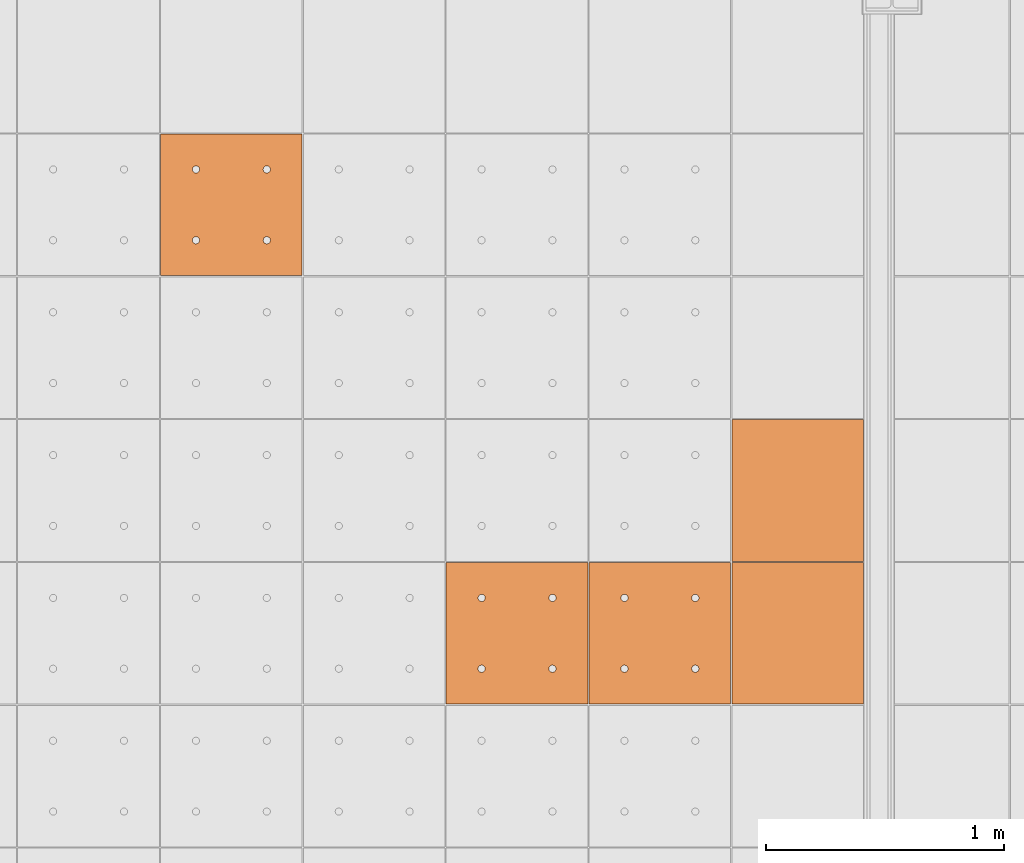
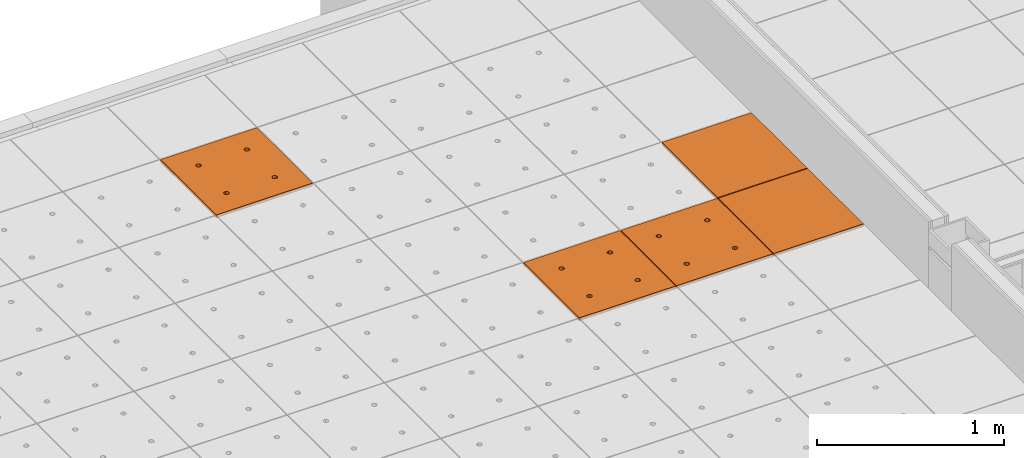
# One storey, part 307 of 338: 5 proxies, 1 element without a shape of its own.
"""IFC2X3 building model written with IfcOpenShell, lengths in millimetres."""

import ifcopenshell
import ifcopenshell.guid

model = None  # the IFC model being written
_history = None  # IfcOwnerHistory: only IFC2X3 demands one
_inside = {}  # id of a spatial element -> (the spatial element, [elements in it])
_under = {}  # id of a project, library or spatial element -> (it, [spatial elements below it])
_declared = {}  # id of a project -> (the project, [libraries it declares])
_typed = {}  # id of a type object -> (the type object, [elements of that type])
_made_of = {}  # id of a material, layer set ... -> (it, [elements and type objects made of it])


def new_model(schema):
    """Start an empty IFC model of exactly this schema.

    Asked for "IFC4X3", IfcOpenShell would pick the latest addendum, in which some entities
    have other attributes; the version numbers below select the first issue.
    IFC2X3 requires an IfcOwnerHistory on every rooted entity: one is made here for all.
    """
    global model, _history
    if schema == "IFC4X3":
        model = ifcopenshell.file(schema_version=(4, 3, 0, 0))
    else:
        model = ifcopenshell.file(schema=schema)
    _inside.clear()
    _under.clear()
    _declared.clear()
    _typed.clear()
    _made_of.clear()
    _history = None
    if model.schema == "IFC2X3":
        org = make("IfcOrganization", Name="unknown")
        user = make(
            "IfcPersonAndOrganization",
            ThePerson=make("IfcPerson", FamilyName="unknown"),
            TheOrganization=org,
        )
        app = make(
            "IfcApplication",
            ApplicationDeveloper=org,
            Version="unknown",
            ApplicationFullName="unknown",
            ApplicationIdentifier="unknown",
        )
        _history = make(
            "IfcOwnerHistory",
            OwningUser=user,
            OwningApplication=app,
            ChangeAction="ADDED",
            CreationDate=0,
        )
    return model


def make(cls, **values):
    """One entity of the class cls with the attributes given. An attribute that is None is left unset."""
    return model.create_entity(
        cls, **{name: value for name, value in values.items() if value is not None}
    )


def entity(cls, *values):
    """Any entity or typed value of the class cls, its attributes in the order of the schema. None: left unset."""
    e = model.create_entity(cls)
    for i, value in enumerate(values):
        if value is not None:
            e[i] = value
    return e


def rooted(cls, **values):
    """An entity with a GlobalId (a new one), such as an element, a storey or a relation."""
    return make(cls, GlobalId=ifcopenshell.guid.new(), OwnerHistory=_history, **values)


def si_unit(unit_type, name, prefix=None):
    """IfcSIUnit, for example si_unit("LENGTHUNIT", "METRE", prefix="MILLI")."""
    return make("IfcSIUnit", UnitType=unit_type, Prefix=prefix, Name=name)


def converted_unit(unit_type, name, factor, base, dimensions=None, offset=None):
    """IfcConversionBasedUnit, such as the inch: factor (a typed value) times the base unit."""
    return make(
        "IfcConversionBasedUnit"
        if offset is None
        else "IfcConversionBasedUnitWithOffset",
        ConversionOffset=offset,
        Dimensions=None
        if dimensions is None
        else entity("IfcDimensionalExponents", *dimensions),
        UnitType=unit_type,
        Name=name,
        ConversionFactor=make(
            "IfcMeasureWithUnit", ValueComponent=factor, UnitComponent=base
        ),
    )


def derived_unit(unit_type, elements):
    """IfcDerivedUnit: a product of units, each with its exponent."""
    return make(
        "IfcDerivedUnit",
        Elements=[
            make("IfcDerivedUnitElement", Unit=unit, Exponent=power)
            for unit, power in elements
        ],
        UnitType=unit_type,
    )


def money_unit(currency):
    """IfcMonetaryUnit."""
    return make("IfcMonetaryUnit", Currency=currency)


def assignment(units):
    """IfcUnitAssignment: the units of a project."""
    return None if units is None else make("IfcUnitAssignment", Units=units)


def point(xyz):
    """IfcCartesianPoint."""
    return None if xyz is None else make("IfcCartesianPoint", Coordinates=xyz)


def direction(xyz):
    """IfcDirection."""
    return None if xyz is None else make("IfcDirection", DirectionRatios=xyz)


def frame(location, z_axis=None, x_axis=None):
    """IfcAxis2Placement3D, a coordinate frame: its origin and axes. An axis left out is left unset."""
    return make(
        "IfcAxis2Placement3D",
        Location=point(location),
        Axis=direction(z_axis),
        RefDirection=direction(x_axis),
    )


def origin_with_axes():
    """The frame at (0, 0, 0) with the z axis (0, 0, 1) and the x axis (1, 0, 0) written out."""
    return frame((0.0, 0.0, 0.0), z_axis=(0.0, 0.0, 1.0), x_axis=(1.0, 0.0, 0.0))


def place(relative_to, where):
    """IfcLocalPlacement: puts the frame where relative to a parent placement (None: the world)."""
    return make(
        "IfcLocalPlacement", PlacementRelTo=relative_to, RelativePlacement=where
    )


def context(
    kind, dimensions, precision=None, world=None, true_north=None, identifier=None
):
    """IfcGeometricRepresentationContext, for example the 3D "Model" context."""
    return make(
        "IfcGeometricRepresentationContext",
        ContextIdentifier=identifier,
        ContextType=kind,
        CoordinateSpaceDimension=dimensions,
        Precision=precision,
        WorldCoordinateSystem=world,
        TrueNorth=true_north,
    )


def subcontext(parent, identifier, kind, view, scale=None):
    """IfcGeometricRepresentationSubContext, for example "Body" below "Model"."""
    return make(
        "IfcGeometricRepresentationSubContext",
        ContextIdentifier=identifier,
        ContextType=kind,
        ParentContext=parent,
        TargetScale=scale,
        TargetView=view,
    )


def project(units=None, contexts=None):
    """IfcProject with its units and contexts."""
    return rooted(
        "IfcProject",
        Name="project",
        RepresentationContexts=contexts,
        UnitsInContext=assignment(units),
    )


def spatial(cls, under=None, at=None, **own):
    """A site, building, storey or space (cls), placed at a placement, below another one or the project."""
    s = rooted(cls, ObjectPlacement=at, **own)
    if under is not None:
        _under.setdefault(under.id(), (under, []))[1].append(s)
    return s


def faces_of(points, faces, orient=None, outer=None):
    """IfcFace entities. A face is a list of loops; a loop is a list of indices into points, from 0.

    orient and outer hold one flag for each loop. By default every Orientation is true, the
    first loop of a face is its IfcFaceOuterBound and the others are IfcFaceBound.
    """
    made = []
    for i, loops in enumerate(faces):
        bounds = []
        for j, loop in enumerate(loops):
            is_outer = j == 0 if outer is None else outer[i][j]
            bounds.append(
                make(
                    "IfcFaceOuterBound" if is_outer else "IfcFaceBound",
                    Bound=make("IfcPolyLoop", Polygon=[points[k] for k in loop]),
                    Orientation=True if orient is None else orient[i][j],
                )
            )
        made.append(make("IfcFace", Bounds=bounds))
    return made


def faceted_brep(points, faces, orient=None, outer=None, voids=None):
    """IfcFacetedBrep: a solid bounded by flat faces; with voids (closed shells), ...WithVoids."""
    shared = [point(p) for p in points]
    hull = make("IfcClosedShell", CfsFaces=faces_of(shared, faces, orient, outer))
    if voids is None:
        return make("IfcFacetedBrep", Outer=hull)
    return make(
        "IfcFacetedBrepWithVoids",
        Outer=hull,
        Voids=[
            make(cls, CfsFaces=faces_of(shared, fs, o, b)) for cls, fs, o, b in voids
        ],
    )


def shape(context_of_items, identifier, shape_type, items):
    """IfcShapeRepresentation: the items that make up one representation, for example the "Body"."""
    return make(
        "IfcShapeRepresentation",
        ContextOfItems=context_of_items,
        RepresentationIdentifier=identifier,
        RepresentationType=shape_type,
        Items=items,
    )


def source(mapping_origin, context_of_items, identifier, shape_type, items):
    """IfcRepresentationMap: a shape defined once, which mapped items show again and again."""
    return make(
        "IfcRepresentationMap",
        MappingOrigin=mapping_origin,
        MappedRepresentation=shape(context_of_items, identifier, shape_type, items),
    )


def transform(
    local_origin,
    x_axis=None,
    y_axis=None,
    z_axis=None,
    scale=None,
    scale2=None,
    scale3=None,
    uniform=True,
):
    """IfcCartesianTransformationOperator3D, or its non-uniform kind. x_axis, y_axis, z_axis: its Axis1, 2, 3."""
    if uniform:
        return make(
            "IfcCartesianTransformationOperator3D",
            Axis1=direction(x_axis),
            Axis2=direction(y_axis),
            LocalOrigin=point(local_origin),
            Scale=scale,
            Axis3=direction(z_axis),
        )
    return make(
        "IfcCartesianTransformationOperator3DnonUniform",
        Axis1=direction(x_axis),
        Axis2=direction(y_axis),
        LocalOrigin=point(local_origin),
        Scale=scale,
        Axis3=direction(z_axis),
        Scale2=scale2,
        Scale3=scale3,
    )


def mapped(mapping_source, mapping_target):
    """IfcMappedItem: shows the shape of a source again, moved by a transform."""
    return make(
        "IfcMappedItem", MappingSource=mapping_source, MappingTarget=mapping_target
    )


def material(Name=None, Category=None):
    """IfcMaterial."""
    return make("IfcMaterial", Name=Name, Category=Category)


def made_of(thing, what):
    """Note that an element or type object is made of a material, layer set ...; save() writes the relation."""
    if what is not None:
        _made_of.setdefault(what.id(), (what, []))[1].append(thing)
    return thing


def type_object(cls, material=None, **own):
    """A type object (cls), such as IfcWallType, which elements share."""
    return made_of(rooted(cls, **own), material)


def type_shapes(of_type, sources):
    """Give a type object the sources (RepresentationMaps) that its elements show as mapped items."""
    of_type.RepresentationMaps = sources


def element(
    cls,
    number,
    at=None,
    inside=None,
    cuts=None,
    type_object=None,
    material=None,
    context=None,
    identifier="Body",
    shape_type=None,
    held_by="IfcProductDefinitionShape",
    body=None,
    shapes=None,
    **own,
):
    """One element of the class cls, such as IfcWall. Its Tag is "e" and its number.

    at: its placement. inside: the storey or other place that contains it. cuts: it is an
    opening in that element (IfcRelVoidsElement). A single representation is given by context,
    identifier, shape_type and body (its items); several are given by shapes. held_by: the class
    of the entity that holds the representations. save() writes the other relations.
    """
    e = rooted(cls, Tag="e%d" % number, ObjectPlacement=at, **own)
    if body is not None:
        shapes = [shape(context, identifier, shape_type, body)]
    if shapes is not None:
        e.Representation = make(held_by, Representations=shapes)
    if inside is not None:
        _inside.setdefault(inside.id(), (inside, []))[1].append(e)
    if cuts is not None:
        rooted(
            "IfcRelVoidsElement", RelatingBuildingElement=cuts, RelatedOpeningElement=e
        )
    if type_object is not None:
        _typed.setdefault(type_object.id(), (type_object, []))[1].append(e)
    return made_of(e, material)


def aggregate(whole, parts):
    """IfcRelAggregates: a whole, such as a stair, and the parts it consists of."""
    return rooted("IfcRelAggregates", RelatingObject=whole, RelatedObjects=parts)


def save(model, path):
    """Write the relations noted so far, then the file.

    IfcRelAggregates (storeys below a building ...), IfcRelContainedInSpatialStructure (elements
    in a storey), IfcRelDefinesByType, IfcRelAssociatesMaterial and IfcRelDeclares: one each for
    every whole, place, type object, material and project.
    """
    for whole, parts in _under.values():
        aggregate(whole, parts)
    for where, things in _inside.values():
        rooted(
            "IfcRelContainedInSpatialStructure",
            RelatedElements=things,
            RelatingStructure=where,
        )
    for kind, things in _typed.values():
        rooted("IfcRelDefinesByType", RelatedObjects=things, RelatingType=kind)
    for what, things in _made_of.values():
        rooted("IfcRelAssociatesMaterial", RelatedObjects=things, RelatingMaterial=what)
    for by, libraries in _declared.values():
        rooted("IfcRelDeclares", RelatingContext=by, RelatedDefinitions=libraries)
    model.write(path)


model = new_model("IFC2X3")

# Units and contexts
model_context = context("Model", 3, precision=0.01, world=origin_with_axes(), true_north=direction((0.0, 1.0)))
plan_context = context("Plan", 3, precision=0.01, world=origin_with_axes(), true_north=direction((0.0, 1.0)))
body_context = subcontext(model_context, "Body", "Model", "MODEL_VIEW")
ifc_project = project(units=[si_unit("LENGTHUNIT", "METRE", prefix="MILLI"), si_unit("AREAUNIT", "SQUARE_METRE"), si_unit("VOLUMEUNIT", "CUBIC_METRE"), converted_unit("PLANEANGLEUNIT", "DEGREE", entity("IfcPlaneAngleMeasure", 0.0174532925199), si_unit("PLANEANGLEUNIT", "RADIAN"), dimensions=[0, 0, 0, 0, 0, 0, 0]), money_unit("EUR"), converted_unit("TIMEUNIT", "Year", entity("IfcTimeMeasure", 31556926.0), si_unit("TIMEUNIT", "SECOND"), dimensions=[0, 0, 1, 0, 0, 0, 0]), si_unit("MASSUNIT", "GRAM", prefix="KILO"), si_unit("THERMODYNAMICTEMPERATUREUNIT", "DEGREE_CELSIUS"), si_unit("LUMINOUSINTENSITYUNIT", "LUMEN"), si_unit("ENERGYUNIT", "JOULE", prefix="MEGA"), derived_unit("THERMALCONDUCTANCEUNIT", [(si_unit("POWERUNIT", "WATT"), 1), (si_unit("LENGTHUNIT", "METRE"), -1), (si_unit("THERMODYNAMICTEMPERATUREUNIT", "KELVIN"), -1)]), derived_unit("SPECIFICHEATCAPACITYUNIT", [(si_unit("ENERGYUNIT", "JOULE"), 1), (si_unit("MASSUNIT", "GRAM", prefix="KILO"), -1), (si_unit("THERMODYNAMICTEMPERATUREUNIT", "KELVIN"), -1)]), derived_unit("MASSDENSITYUNIT", [(si_unit("MASSUNIT", "GRAM", prefix="KILO"), 1), (si_unit("VOLUMEUNIT", "CUBIC_METRE"), -1)])], contexts=[model_context, plan_context])

# Site, building, storey
site_placement = place(None, origin_with_axes())
site = spatial("IfcSite", under=ifc_project, at=site_placement, Name="Fortuinstraat Woensdrecht", CompositionType="ELEMENT")
building_placement = place(site_placement, origin_with_axes())
building = spatial("IfcBuilding", under=site, at=building_placement, Name="IKC Fortuna", CompositionType="ELEMENT")
storey_placement = place(building_placement, origin_with_axes())
storey = spatial("IfcBuildingStorey", under=building, at=storey_placement, Name="00 begane grond", CompositionType="ELEMENT", Elevation=0.0)

# Covering, proxies
covering_type = type_object("IfcCoveringType", Name="Curtain Wall Type", PredefinedType="CEILING")
covering_placement = place(storey_placement, frame((24394.3550152, 31482.3495284, 3210.0), z_axis=(0.0, 0.0, 1.0), x_axis=(1.0, 0.0, 0.0)))
covering = element("IfcCovering", 1, at=covering_placement, inside=storey, type_object=covering_type, Name="45_Plafondafwerking_P01", PredefinedType="CEILING")
ifc_material = material(Name="Gipsplaat")
building_element_proxy_type_1 = type_object("IfcBuildingElementProxyType", Name="Main Panel 600 x 600 x 20", PredefinedType="NOTDEFINED")
shared_shape_1 = source(origin_with_axes(), body_context, "Body", "Brep", [
    faceted_brep([(2.49999999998, 2.49999999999, -10.0), (300.0, 2.49999999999, -10.0), (300.0, 2.49999999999, 10.0), (2.49999999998, 2.49999999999, 10.0), (2.49999999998, 300.0, -10.0), (2.49999999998, 597.5, -10.0), (300.0, 597.5, -10.0), (597.5, 597.5, -10.0), (597.5, 300.0, -10.0), (597.5, 2.49999999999, -10.0), (166.25, 450.06232995, -10.0), (165.79423259, 452.64711538, -10.0), (164.896546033, 455.11348892, -10.0), (163.58421608, 457.38651108, -10.0), (161.897117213, 459.39711721, -10.0), (159.886511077, 461.08421608, -10.0), (157.613488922, 462.39654603, -10.0), (155.147115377, 463.29423259, -10.0), (152.562329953, 463.75, -10.0), (149.937670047, 463.75, -10.0), (147.352884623, 463.29423259, -10.0), (144.886511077, 462.39654603, -10.0), (142.613488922, 461.08421608, -10.0), (140.602882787, 459.39711721, -10.0), (138.91578392, 457.38651108, -10.0), (137.603453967, 455.11348892, -10.0), (136.705767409, 452.64711538, -10.0), (136.25, 450.06232995, -10.0), (136.25, 448.75, -10.0), (136.25, 447.43767005, -10.0), (136.705767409, 444.85288462, -10.0), (137.603453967, 442.38651108, -10.0), (138.91578392, 440.11348892, -10.0), (140.602882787, 438.10288279, -10.0), (142.613488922, 436.41578392, -10.0), (144.886511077, 435.10345397, -10.0), (147.352884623, 434.20576741, -10.0), (149.937670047, 433.75, -10.0), (152.562329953, 433.75, -10.0), (155.147115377, 434.20576741, -10.0), (157.613488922, 435.10345397, -10.0), (159.886511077, 436.41578392, -10.0), (161.897117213, 438.10288279, -10.0), (163.58421608, 440.11348892, -10.0), (164.896546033, 442.38651108, -10.0), (165.79423259, 444.85288462, -10.0), (166.25, 447.43767005, -10.0), (463.75, 450.06232995, -10.0), (463.29423259, 452.64711538, -10.0), (462.396546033, 455.11348892, -10.0), (461.08421608, 457.38651108, -10.0), (459.397117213, 459.39711721, -10.0), (457.386511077, 461.08421608, -10.0), (455.113488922, 462.39654603, -10.0), (452.647115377, 463.29423259, -10.0), (450.062329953, 463.75, -10.0), (447.437670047, 463.75, -10.0), (444.852884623, 463.29423259, -10.0), (442.386511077, 462.39654603, -10.0), (440.113488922, 461.08421608, -10.0), (438.102882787, 459.39711721, -10.0), (436.41578392, 457.38651108, -10.0), (435.103453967, 455.11348892, -10.0), (434.205767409, 452.64711538, -10.0), (433.75, 450.06232995, -10.0), (433.75, 448.75, -10.0), (433.75, 447.43767005, -10.0), (434.205767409, 444.85288462, -10.0), (435.103453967, 442.38651108, -10.0), (436.41578392, 440.11348892, -10.0), (438.102882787, 438.10288279, -10.0), (440.113488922, 436.41578392, -10.0), (442.386511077, 435.10345397, -10.0), (444.852884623, 434.20576741, -10.0), (447.437670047, 433.75, -10.0), (450.062329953, 433.75, -10.0), (452.647115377, 434.20576741, -10.0), (455.113488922, 435.10345397, -10.0), (457.386511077, 436.41578392, -10.0), (459.397117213, 438.10288279, -10.0), (461.08421608, 440.11348892, -10.0), (462.396546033, 442.38651108, -10.0), (463.29423259, 444.85288462, -10.0), (463.75, 447.43767005, -10.0), (463.75, 152.56232995, -10.0), (463.29423259, 155.14711538, -10.0), (462.396546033, 157.61348892, -10.0), (461.08421608, 159.88651108, -10.0), (459.397117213, 161.89711721, -10.0), (457.386511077, 163.58421608, -10.0), (455.113488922, 164.89654603, -10.0), (452.647115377, 165.79423259, -10.0), (450.062329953, 166.25, -10.0), (447.437670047, 166.25, -10.0), (444.852884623, 165.79423259, -10.0), (442.386511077, 164.89654603, -10.0), (440.113488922, 163.58421608, -10.0), (438.102882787, 161.89711721, -10.0), (436.41578392, 159.88651108, -10.0), (435.103453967, 157.61348892, -10.0), (434.205767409, 155.14711538, -10.0), (433.75, 152.56232995, -10.0), (433.75, 151.25, -10.0), (433.75, 149.93767005, -10.0), (434.205767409, 147.35288462, -10.0), (435.103453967, 144.88651108, -10.0), (436.41578392, 142.61348892, -10.0), (438.102882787, 140.60288279, -10.0), (440.113488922, 138.91578392, -10.0), (442.386511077, 137.60345397, -10.0), (444.852884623, 136.70576741, -10.0), (447.437670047, 136.25, -10.0), (450.062329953, 136.25, -10.0), (452.647115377, 136.70576741, -10.0), (455.113488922, 137.60345397, -10.0), (457.386511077, 138.91578392, -10.0), (459.397117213, 140.60288279, -10.0), (461.08421608, 142.61348892, -10.0), (462.396546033, 144.88651108, -10.0), (463.29423259, 147.35288462, -10.0), (463.75, 149.93767005, -10.0), (166.25, 152.56232995, -10.0), (165.79423259, 155.14711538, -10.0), (164.896546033, 157.61348892, -10.0), (163.58421608, 159.88651108, -10.0), (161.897117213, 161.89711721, -10.0), (159.886511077, 163.58421608, -10.0), (157.613488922, 164.89654603, -10.0), (155.147115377, 165.79423259, -10.0), (152.562329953, 166.25, -10.0), (149.937670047, 166.25, -10.0), (147.352884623, 165.79423259, -10.0), (144.886511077, 164.89654603, -10.0), (142.613488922, 163.58421608, -10.0), (140.602882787, 161.89711721, -10.0), (138.91578392, 159.88651108, -10.0), (137.603453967, 157.61348892, -10.0), (136.705767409, 155.14711538, -10.0), (136.25, 152.56232995, -10.0), (136.25, 151.25, -10.0), (136.25, 149.93767005, -10.0), (136.705767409, 147.35288462, -10.0), (137.603453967, 144.88651108, -10.0), (138.91578392, 142.61348892, -10.0), (140.602882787, 140.60288279, -10.0), (142.613488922, 138.91578392, -10.0), (144.886511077, 137.60345397, -10.0), (147.352884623, 136.70576741, -10.0), (149.937670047, 136.25, -10.0), (152.562329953, 136.25, -10.0), (155.147115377, 136.70576741, -10.0), (157.613488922, 137.60345397, -10.0), (159.886511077, 138.91578392, -10.0), (161.897117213, 140.60288279, -10.0), (163.58421608, 142.61348892, -10.0), (164.896546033, 144.88651108, -10.0), (165.79423259, 147.35288462, -10.0), (166.25, 149.93767005, -10.0), (597.5, 2.49999999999, 10.0), (597.5, 300.0, 10.0), (597.5, 597.5, 10.0), (300.0, 597.5, 10.0), (2.49999999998, 597.5, 10.0), (2.49999999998, 300.0, 10.0), (166.25, 450.06232995, 10.0), (166.25, 447.43767005, 10.0), (165.79423259, 444.85288462, 10.0), (164.896546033, 442.38651108, 10.0), (163.58421608, 440.11348892, 10.0), (161.897117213, 438.10288279, 10.0), (159.886511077, 436.41578392, 10.0), (157.613488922, 435.10345397, 10.0), (155.147115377, 434.20576741, 10.0), (152.562329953, 433.75, 10.0), (149.937670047, 433.75, 10.0), (147.352884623, 434.20576741, 10.0), (144.886511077, 435.10345397, 10.0), (142.613488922, 436.41578392, 10.0), (140.602882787, 438.10288279, 10.0), (138.91578392, 440.11348892, 10.0), (137.603453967, 442.38651108, 10.0), (136.705767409, 444.85288462, 10.0), (136.25, 447.43767005, 10.0), (136.25, 448.75, 10.0), (136.25, 450.06232995, 10.0), (136.705767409, 452.64711538, 10.0), (137.603453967, 455.11348892, 10.0), (138.91578392, 457.38651108, 10.0), (140.602882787, 459.39711721, 10.0), (142.613488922, 461.08421608, 10.0), (144.886511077, 462.39654603, 10.0), (147.352884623, 463.29423259, 10.0), (149.937670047, 463.75, 10.0), (152.562329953, 463.75, 10.0), (155.147115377, 463.29423259, 10.0), (157.613488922, 462.39654603, 10.0), (159.886511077, 461.08421608, 10.0), (161.897117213, 459.39711721, 10.0), (163.58421608, 457.38651108, 10.0), (164.896546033, 455.11348892, 10.0), (165.79423259, 452.64711538, 10.0), (463.75, 450.06232995, 10.0), (463.75, 447.43767005, 10.0), (463.29423259, 444.85288462, 10.0), (462.396546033, 442.38651108, 10.0), (461.08421608, 440.11348892, 10.0), (459.397117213, 438.10288279, 10.0), (457.386511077, 436.41578392, 10.0), (455.113488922, 435.10345397, 10.0), (452.647115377, 434.20576741, 10.0), (450.062329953, 433.75, 10.0), (447.437670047, 433.75, 10.0), (444.852884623, 434.20576741, 10.0), (442.386511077, 435.10345397, 10.0), (440.113488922, 436.41578392, 10.0), (438.102882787, 438.10288279, 10.0), (436.41578392, 440.11348892, 10.0), (435.103453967, 442.38651108, 10.0), (434.205767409, 444.85288462, 10.0), (433.75, 447.43767005, 10.0), (433.75, 448.75, 10.0), (433.75, 450.06232995, 10.0), (434.205767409, 452.64711538, 10.0), (435.103453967, 455.11348892, 10.0), (436.41578392, 457.38651108, 10.0), (438.102882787, 459.39711721, 10.0), (440.113488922, 461.08421608, 10.0), (442.386511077, 462.39654603, 10.0), (444.852884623, 463.29423259, 10.0), (447.437670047, 463.75, 10.0), (450.062329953, 463.75, 10.0), (452.647115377, 463.29423259, 10.0), (455.113488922, 462.39654603, 10.0), (457.386511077, 461.08421608, 10.0), (459.397117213, 459.39711721, 10.0), (461.08421608, 457.38651108, 10.0), (462.396546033, 455.11348892, 10.0), (463.29423259, 452.64711538, 10.0), (463.75, 152.56232995, 10.0), (463.75, 149.93767005, 10.0), (463.29423259, 147.35288462, 10.0), (462.396546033, 144.88651108, 10.0), (461.08421608, 142.61348892, 10.0), (459.397117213, 140.60288279, 10.0), (457.386511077, 138.91578392, 10.0), (455.113488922, 137.60345397, 10.0), (452.647115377, 136.70576741, 10.0), (450.062329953, 136.25, 10.0), (447.437670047, 136.25, 10.0), (444.852884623, 136.70576741, 10.0), (442.386511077, 137.60345397, 10.0), (440.113488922, 138.91578392, 10.0), (438.102882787, 140.60288279, 10.0), (436.41578392, 142.61348892, 10.0), (435.103453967, 144.88651108, 10.0), (434.205767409, 147.35288462, 10.0), (433.75, 149.93767005, 10.0), (433.75, 151.25, 10.0), (433.75, 152.56232995, 10.0), (434.205767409, 155.14711538, 10.0), (435.103453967, 157.61348892, 10.0), (436.41578392, 159.88651108, 10.0), (438.102882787, 161.89711721, 10.0), (440.113488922, 163.58421608, 10.0), (442.386511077, 164.89654603, 10.0), (444.852884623, 165.79423259, 10.0), (447.437670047, 166.25, 10.0), (450.062329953, 166.25, 10.0), (452.647115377, 165.79423259, 10.0), (455.113488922, 164.89654603, 10.0), (457.386511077, 163.58421608, 10.0), (459.397117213, 161.89711721, 10.0), (461.08421608, 159.88651108, 10.0), (462.396546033, 157.61348892, 10.0), (463.29423259, 155.14711538, 10.0), (166.25, 152.56232995, 10.0), (166.25, 149.93767005, 10.0), (165.79423259, 147.35288462, 10.0), (164.896546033, 144.88651108, 10.0), (163.58421608, 142.61348892, 10.0), (161.897117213, 140.60288279, 10.0), (159.886511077, 138.91578392, 10.0), (157.613488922, 137.60345397, 10.0), (155.147115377, 136.70576741, 10.0), (152.562329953, 136.25, 10.0), (149.937670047, 136.25, 10.0), (147.352884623, 136.70576741, 10.0), (144.886511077, 137.60345397, 10.0), (142.613488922, 138.91578392, 10.0), (140.602882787, 140.60288279, 10.0), (138.91578392, 142.61348892, 10.0), (137.603453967, 144.88651108, 10.0), (136.705767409, 147.35288462, 10.0), (136.25, 149.93767005, 10.0), (136.25, 151.25, 10.0), (136.25, 152.56232995, 10.0), (136.705767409, 155.14711538, 10.0), (137.603453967, 157.61348892, 10.0), (138.91578392, 159.88651108, 10.0), (140.602882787, 161.89711721, 10.0), (142.613488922, 163.58421608, 10.0), (144.886511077, 164.89654603, 10.0), (147.352884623, 165.79423259, 10.0), (149.937670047, 166.25, 10.0), (152.562329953, 166.25, 10.0), (155.147115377, 165.79423259, 10.0), (157.613488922, 164.89654603, 10.0), (159.886511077, 163.58421608, 10.0), (161.897117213, 161.89711721, 10.0), (163.58421608, 159.88651108, 10.0), (164.896546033, 157.61348892, 10.0), (165.79423259, 155.14711538, 10.0)], [[[0, 1, 2, 3]], [[0, 4, 5, 6, 7, 8, 9, 1], [10, 11, 12, 13, 14, 15, 16, 17, 18, 19, 20, 21, 22, 23, 24, 25, 26, 27, 28, 29, 30, 31, 32, 33, 34, 35, 36, 37, 38, 39, 40, 41, 42, 43, 44, 45, 46], [47, 48, 49, 50, 51, 52, 53, 54, 55, 56, 57, 58, 59, 60, 61, 62, 63, 64, 65, 66, 67, 68, 69, 70, 71, 72, 73, 74, 75, 76, 77, 78, 79, 80, 81, 82, 83], [84, 85, 86, 87, 88, 89, 90, 91, 92, 93, 94, 95, 96, 97, 98, 99, 100, 101, 102, 103, 104, 105, 106, 107, 108, 109, 110, 111, 112, 113, 114, 115, 116, 117, 118, 119, 120], [121, 122, 123, 124, 125, 126, 127, 128, 129, 130, 131, 132, 133, 134, 135, 136, 137, 138, 139, 140, 141, 142, 143, 144, 145, 146, 147, 148, 149, 150, 151, 152, 153, 154, 155, 156, 157]], [[1, 9, 158, 2]], [[3, 2, 158, 159, 160, 161, 162, 163], [164, 165, 166, 167, 168, 169, 170, 171, 172, 173, 174, 175, 176, 177, 178, 179, 180, 181, 182, 183, 184, 185, 186, 187, 188, 189, 190, 191, 192, 193, 194, 195, 196, 197, 198, 199, 200], [201, 202, 203, 204, 205, 206, 207, 208, 209, 210, 211, 212, 213, 214, 215, 216, 217, 218, 219, 220, 221, 222, 223, 224, 225, 226, 227, 228, 229, 230, 231, 232, 233, 234, 235, 236, 237], [238, 239, 240, 241, 242, 243, 244, 245, 246, 247, 248, 249, 250, 251, 252, 253, 254, 255, 256, 257, 258, 259, 260, 261, 262, 263, 264, 265, 266, 267, 268, 269, 270, 271, 272, 273, 274], [275, 276, 277, 278, 279, 280, 281, 282, 283, 284, 285, 286, 287, 288, 289, 290, 291, 292, 293, 294, 295, 296, 297, 298, 299, 300, 301, 302, 303, 304, 305, 306, 307, 308, 309, 310, 311]], [[4, 0, 3, 163]], [[5, 4, 163, 162]], [[6, 5, 162, 161]], [[7, 6, 161, 160]], [[8, 7, 160, 159]], [[9, 8, 159, 158]], [[11, 10, 164, 200]], [[12, 11, 200, 199]], [[13, 12, 199, 198]], [[14, 13, 198, 197]], [[15, 14, 197, 196]], [[16, 15, 196, 195]], [[17, 16, 195, 194]], [[18, 17, 194, 193]], [[19, 18, 193, 192]], [[20, 19, 192, 191]], [[21, 20, 191, 190]], [[22, 21, 190, 189]], [[23, 22, 189, 188]], [[24, 23, 188, 187]], [[25, 24, 187, 186]], [[26, 25, 186, 185]], [[27, 26, 185, 184]], [[28, 27, 184, 183]], [[29, 28, 183, 182]], [[30, 29, 182, 181]], [[31, 30, 181, 180]], [[32, 31, 180, 179]], [[33, 32, 179, 178]], [[34, 33, 178, 177]], [[35, 34, 177, 176]], [[36, 35, 176, 175]], [[37, 36, 175, 174]], [[38, 37, 174, 173]], [[39, 38, 173, 172]], [[40, 39, 172, 171]], [[41, 40, 171, 170]], [[42, 41, 170, 169]], [[43, 42, 169, 168]], [[44, 43, 168, 167]], [[45, 44, 167, 166]], [[46, 45, 166, 165]], [[10, 46, 165, 164]], [[48, 47, 201, 237]], [[49, 48, 237, 236]], [[50, 49, 236, 235]], [[51, 50, 235, 234]], [[52, 51, 234, 233]], [[53, 52, 233, 232]], [[54, 53, 232, 231]], [[55, 54, 231, 230]], [[56, 55, 230, 229]], [[57, 56, 229, 228]], [[58, 57, 228, 227]], [[59, 58, 227, 226]], [[60, 59, 226, 225]], [[61, 60, 225, 224]], [[62, 61, 224, 223]], [[63, 62, 223, 222]], [[64, 63, 222, 221]], [[65, 64, 221, 220]], [[66, 65, 220, 219]], [[67, 66, 219, 218]], [[68, 67, 218, 217]], [[69, 68, 217, 216]], [[70, 69, 216, 215]], [[71, 70, 215, 214]], [[72, 71, 214, 213]], [[73, 72, 213, 212]], [[74, 73, 212, 211]], [[75, 74, 211, 210]], [[76, 75, 210, 209]], [[77, 76, 209, 208]], [[78, 77, 208, 207]], [[79, 78, 207, 206]], [[80, 79, 206, 205]], [[81, 80, 205, 204]], [[82, 81, 204, 203]], [[83, 82, 203, 202]], [[47, 83, 202, 201]], [[85, 84, 238, 274]], [[86, 85, 274, 273]], [[87, 86, 273, 272]], [[88, 87, 272, 271]], [[89, 88, 271, 270]], [[90, 89, 270, 269]], [[91, 90, 269, 268]], [[92, 91, 268, 267]], [[93, 92, 267, 266]], [[94, 93, 266, 265]], [[95, 94, 265, 264]], [[96, 95, 264, 263]], [[97, 96, 263, 262]], [[98, 97, 262, 261]], [[99, 98, 261, 260]], [[100, 99, 260, 259]], [[101, 100, 259, 258]], [[102, 101, 258, 257]], [[103, 102, 257, 256]], [[104, 103, 256, 255]], [[105, 104, 255, 254]], [[106, 105, 254, 253]], [[107, 106, 253, 252]], [[108, 107, 252, 251]], [[109, 108, 251, 250]], [[110, 109, 250, 249]], [[111, 110, 249, 248]], [[112, 111, 248, 247]], [[113, 112, 247, 246]], [[114, 113, 246, 245]], [[115, 114, 245, 244]], [[116, 115, 244, 243]], [[117, 116, 243, 242]], [[118, 117, 242, 241]], [[119, 118, 241, 240]], [[120, 119, 240, 239]], [[84, 120, 239, 238]], [[122, 121, 275, 311]], [[123, 122, 311, 310]], [[124, 123, 310, 309]], [[125, 124, 309, 308]], [[126, 125, 308, 307]], [[127, 126, 307, 306]], [[128, 127, 306, 305]], [[129, 128, 305, 304]], [[130, 129, 304, 303]], [[131, 130, 303, 302]], [[132, 131, 302, 301]], [[133, 132, 301, 300]], [[134, 133, 300, 299]], [[135, 134, 299, 298]], [[136, 135, 298, 297]], [[137, 136, 297, 296]], [[138, 137, 296, 295]], [[139, 138, 295, 294]], [[140, 139, 294, 293]], [[141, 140, 293, 292]], [[142, 141, 292, 291]], [[143, 142, 291, 290]], [[144, 143, 290, 289]], [[145, 144, 289, 288]], [[146, 145, 288, 287]], [[147, 146, 287, 286]], [[148, 147, 286, 285]], [[149, 148, 285, 284]], [[150, 149, 284, 283]], [[151, 150, 283, 282]], [[152, 151, 282, 281]], [[153, 152, 281, 280]], [[154, 153, 280, 279]], [[155, 154, 279, 278]], [[156, 155, 278, 277]], [[157, 156, 277, 276]], [[121, 157, 276, 275]]]),
])
type_shapes(building_element_proxy_type_1, [shared_shape_1])
proxy_1_placement = place(covering_placement, frame((1800.0, 3000.0, 0.0), z_axis=(0.0, 0.0, 1.0), x_axis=(1.0, 0.0, 0.0)))
proxy_1 = element("IfcBuildingElementProxy", 2, at=proxy_1_placement, type_object=building_element_proxy_type_1, material=ifc_material, Name="__600x603 Rockfon Krios", context=body_context, shape_type="MappedRepresentation", body=[
    mapped(shared_shape_1, transform((300.0, 300.0, 0.0), x_axis=(-1.0, 0.0, 0.0), y_axis=(0.0, -1.0, 0.0), z_axis=(0.0, 0.0, 1.0))),
])
proxy_2_placement = place(covering_placement, frame((3600.0, 1200.0, 0.0), z_axis=(0.0, 0.0, 1.0), x_axis=(1.0, 0.0, 0.0)))
proxy_2 = element("IfcBuildingElementProxy", 3, at=proxy_2_placement, type_object=building_element_proxy_type_1, material=ifc_material, Name="__600x673 Rockfon Krios", context=body_context, shape_type="MappedRepresentation", body=[
    mapped(shared_shape_1, transform((300.0, 300.0, 0.0), x_axis=(-1.0, 0.0, 0.0), y_axis=(0.0, -1.0, 0.0), z_axis=(0.0, 0.0, 1.0))),
])
proxy_3_placement = place(covering_placement, frame((3000.0, 1200.0, 0.0), z_axis=(0.0, 0.0, 1.0), x_axis=(1.0, 0.0, 0.0)))
proxy_3 = element("IfcBuildingElementProxy", 4, at=proxy_3_placement, type_object=building_element_proxy_type_1, material=ifc_material, Name="__600x682 Rockfon Krios", context=body_context, shape_type="MappedRepresentation", body=[
    mapped(shared_shape_1, transform((300.0, 300.0, 0.0), x_axis=(-1.0, 0.0, 0.0), y_axis=(0.0, -1.0, 0.0), z_axis=(0.0, 0.0, 1.0))),
])
building_element_proxy_type_2 = type_object("IfcBuildingElementProxyType", Name="558 x 600 x 20", PredefinedType="NOTDEFINED")
shared_shape_2 = source(origin_with_axes(), body_context, "Body", "Brep", [
    faceted_brep([(44.9200164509, 2.5, -10.0), (597.5, 2.49999999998, -10.0), (597.5, 2.49999999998, 10.0), (44.9200164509, 2.5, 10.0), (44.9200164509, 597.5, -10.0), (597.5, 597.5, -10.0), (597.5, 597.5, 10.0), (44.9200164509, 597.5, 10.0)], [[[0, 1, 2, 3]], [[0, 4, 5, 1]], [[1, 5, 6, 2]], [[3, 2, 6, 7]], [[4, 0, 3, 7]], [[5, 4, 7, 6]]]),
])
type_shapes(building_element_proxy_type_2, [shared_shape_2])
proxy_4_placement = place(covering_placement, frame((4178.78999197, 1200.0, 0.0), z_axis=(0.0, 0.0, 1.0), x_axis=(1.0, 0.0, 0.0)))
proxy_4 = element("IfcBuildingElementProxy", 5, at=proxy_4_placement, type_object=building_element_proxy_type_2, material=ifc_material, Name="__600x622 Rockfon Krios", context=body_context, shape_type="MappedRepresentation", body=[
    mapped(shared_shape_2, transform((321.210008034, 300.0, 0.0), x_axis=(-1.0, 0.0, 0.0), y_axis=(0.0, -1.0, 0.0), z_axis=(0.0, 0.0, 1.0))),
])
proxy_5_placement = place(covering_placement, frame((4178.78999197, 1800.0, 0.0), z_axis=(0.0, 0.0, 1.0), x_axis=(1.0, 0.0, 0.0)))
proxy_5 = element("IfcBuildingElementProxy", 6, at=proxy_5_placement, type_object=building_element_proxy_type_2, material=ifc_material, Name="__600x666 Rockfon Krios", context=body_context, shape_type="MappedRepresentation", body=[
    mapped(shared_shape_2, transform((321.210008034, 300.0, 0.0), x_axis=(-1.0, 0.0, 0.0), y_axis=(0.0, -1.0, 0.0), z_axis=(0.0, 0.0, 1.0))),
])
aggregate(covering, [proxy_1, proxy_4, proxy_5, proxy_2, proxy_3])

save(model, "model.ifc")
